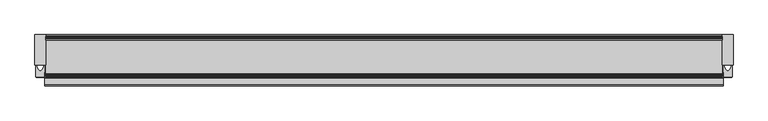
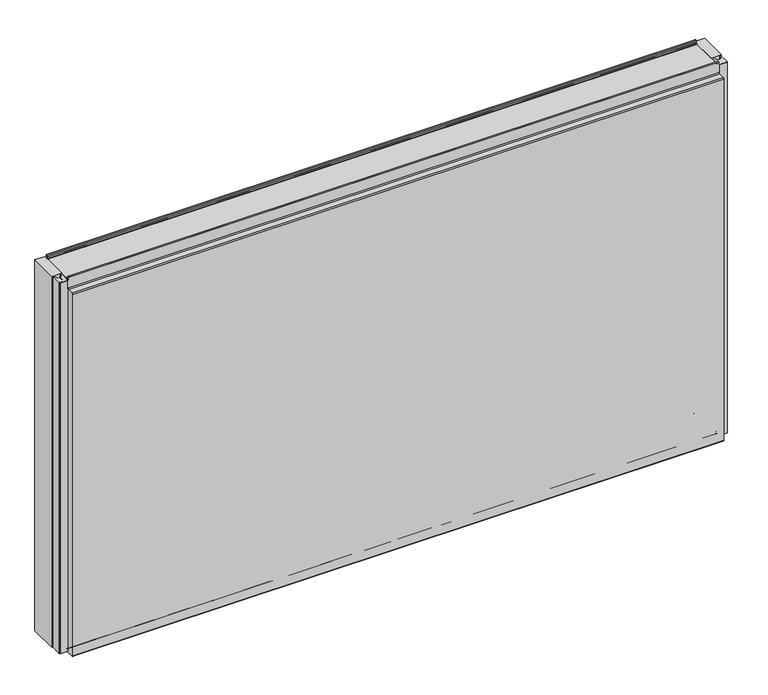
"""IFC4 building model written with IfcOpenShell, lengths in millimetres: plate geometry, Fronttop : Fronttop 150/1190."""

from ifc_helpers import new_model, si_unit, point, frame, frame_2d, origin, origin_with_axes, place, context, project, spatial, polyline, circle_curve, trimmed, segment, composite_curve, outline, extrude, source, transform, mapped, element, save
from ifc_brep_helpers import plane_surface, cylinder_surface, revolved_surface, advanced_brep


def plate_bd2da7d9(model_context):
    return source(origin(), model_context, "Body", "SolidModel", [
        advanced_brep(
        [(-986.5, -124.0, 1198.0), (-986.5, -124.0, 1190.0), (-986.5, -125.0, 1190.0), (-986.5, -125.0, 1198.0), (-986.5, -120.0, 1198.0), (-986.5, -120.0, 1194.0), (-986.5, -117.0, 1191.0), (-986.5, -115.0, 1191.0), (-986.5, -115.0, 1190.0), (-986.5, -117.0, 1190.0), (-986.5, -121.0, 1194.0), (-986.5, -121.0, 1198.0), (986.5, -125.0, 1198.0), (986.5, -125.0, 1190.0), (986.5, -124.0, 1190.0), (986.5, -124.0, 1198.0), (986.5, -121.0, 1198.0), (986.5, -121.0, 1194.0), (986.5, -117.0, 1190.0), (986.5, -115.0, 1190.0), (986.5, -115.0, 1191.0), (986.5, -117.0, 1191.0), (986.5, -120.0, 1194.0), (986.5, -120.0, 1198.0), (-986.5, -117.0, 2.0), (-986.5, -115.0, 2.0), (986.5, -115.0, 2.0), (986.5, -117.0, 2.0), (986.5, -119.0, 4.0), (-986.5, -119.0, 4.0), (986.5, -119.0, 8.0), (-986.5, -119.0, 8.0), (986.5, -126.0, 8.0), (-986.5, -126.0, 8.0), (986.5, -126.0, 0.0), (-986.5, -126.0, 0.0), (986.5, -129.0, -3.0), (-986.5, -129.0, -3.0), (986.5, -125.0, -3.0), (987.5, -125.0, -3.0), (987.5, -147.0, -3.0), (986.5, -147.0, -3.0), (-986.5, -147.0, -3.0), (-987.5, -147.0, -3.0), (-987.5, -125.0, -3.0), (-986.5, -125.0, -3.0), (986.5, -150.0, 0.0), (-986.5, -150.0, 0.0), (987.5, -150.0, 0.0), (987.5, -150.0, 1159.0), (986.5, -150.0, 1159.0), (-986.5, -150.0, 1159.0), (-987.5, -150.0, 1159.0), (-987.5, -150.0, 0.0), (986.5, -147.0, 1162.0), (-986.5, -147.0, 1162.0), (987.5, -147.0, 1162.0), (987.5, -128.0, 1162.0), (986.5, -128.0, 1162.0), (-986.5, -128.0, 1162.0), (-987.5, -128.0, 1162.0), (-987.5, -147.0, 1162.0), (986.5, -125.0, 1165.0), (-986.5, -125.0, 1165.0), (987.5, -125.0, 1165.0), (987.5, -125.0, 1190.0), (-987.5, -125.0, 1190.0), (-987.5, -125.0, 1165.0), (986.5, -124.0, 1165.0), (-986.5, -124.0, 1165.0), (986.5, -128.0, 1161.0), (-986.5, -128.0, 1161.0), (986.5, -147.0, 1161.0), (-986.5, -147.0, 1161.0), (986.5, -149.0, 1159.0), (-986.5, -149.0, 1159.0), (986.5, -149.0, 0.0), (-986.5, -149.0, 0.0), (986.5, -147.0, -2.0), (-986.5, -147.0, -2.0), (986.5, -129.0, -2.0), (-986.5, -129.0, -2.0), (986.5, -127.0, 0.0), (-986.5, -127.0, 0.0), (986.5, -127.0, 8.0), (-986.5, -127.0, 8.0), (986.5, -118.0, 8.0), (-986.5, -118.0, 8.0), (986.5, -118.0, 4.0), (-986.5, -118.0, 4.0), (986.5, -117.0, 3.0), (-986.5, -117.0, 3.0), (986.5, -115.0, 3.0), (-986.5, -115.0, 3.0), (987.5, -125.0, 0.0), (987.5, -110.0, 0.0), (987.5, -110.0, 1190.0), (986.5, -110.0, 1190.0), (986.5, -110.0, 0.0), (986.5, -125.0, 0.0), (-987.5, -110.0, 1190.0), (-987.5, -110.0, 0.0), (-987.5, -125.0, 0.0), (-986.5, -110.0, 1190.0), (-986.5, -125.0, 0.0), (-986.5, -110.0, 0.0)],
        [
            (0, 1),
            (1, 2),
            (2, 3),
            (3, 4, circle_curve(frame((-986.5, -122.5, 1198.0), z_axis=(-1.0, 0.0, 0.0), x_axis=(0.0, 1.0, 0.0)), 2.5)),
            (4, 5),
            (5, 6, circle_curve(frame((-986.5, -117.0, 1194.0), z_axis=(1.0, 0.0, 0.0), x_axis=(0.0, 1.0, 0.0)), 3.0)),
            (6, 7),
            (7, 8),
            (8, 9),
            (9, 10, circle_curve(frame((-986.5, -117.0, 1194.0), z_axis=(-1.0, 0.0, 0.0), x_axis=(0.0, 1.0, 0.0)), 4.0)),
            (10, 11),
            (11, 0, circle_curve(frame((-986.5, -122.5, 1198.0), z_axis=(1.0, 0.0, 0.0), x_axis=(0.0, 1.0, 0.0)), 1.5)),
            (12, 13),
            (13, 14),
            (14, 15),
            (15, 16, circle_curve(frame((986.5, -122.5, 1198.0), z_axis=(-1.0, 0.0, 0.0), x_axis=(0.0, 1.0, 0.0)), 1.5)),
            (16, 17),
            (17, 18, circle_curve(frame((986.5, -117.0, 1194.0), z_axis=(1.0, 0.0, 0.0), x_axis=(0.0, 1.0, 0.0)), 4.0)),
            (18, 19),
            (19, 20),
            (20, 21),
            (21, 22, circle_curve(frame((986.5, -117.0, 1194.0), z_axis=(-1.0, 0.0, 0.0), x_axis=(0.0, 1.0, 0.0)), 3.0)),
            (22, 23),
            (23, 12, circle_curve(frame((986.5, -122.5, 1198.0), z_axis=(1.0, 0.0, 0.0), x_axis=(0.0, 1.0, 0.0)), 2.5)),
            (24, 25),
            (25, 26),
            (26, 27),
            (27, 24),
            (27, 28, circle_curve(frame((986.5, -117.0, 4.0), z_axis=(-1.0, 0.0, 0.0), x_axis=(0.0, 1.0, 0.0)), 2.0)),
            (28, 29),
            (29, 24, circle_curve(frame((-986.5, -117.0, 4.0), z_axis=(1.0, 0.0, 0.0), x_axis=(0.0, 1.0, 0.0)), 2.0)),
            (28, 30),
            (30, 31),
            (31, 29),
            (30, 32, circle_curve(frame((986.5, -122.5, 8.0), z_axis=(1.0, 0.0, 0.0), x_axis=(0.0, 1.0, 0.0)), 3.5)),
            (32, 33),
            (33, 31, circle_curve(frame((-986.5, -122.5, 8.0), z_axis=(-1.0, 0.0, 0.0), x_axis=(0.0, 1.0, 0.0)), 3.5)),
            (32, 34),
            (34, 35),
            (35, 33),
            (34, 36, circle_curve(frame((986.5, -129.0, 0.0), z_axis=(-1.0, 0.0, 0.0), x_axis=(0.0, 1.0, 0.0)), 3.0)),
            (36, 37),
            (37, 35, circle_curve(frame((-986.5, -129.0, 0.0), z_axis=(1.0, 0.0, 0.0), x_axis=(0.0, 1.0, 0.0)), 3.0)),
            (36, 38),
            (38, 39),
            (39, 40),
            (40, 41),
            (41, 42),
            (42, 43),
            (43, 44),
            (44, 45),
            (45, 37),
            (41, 46, circle_curve(frame((986.5, -147.0, 0.0), z_axis=(-1.0, 0.0, 0.0), x_axis=(0.0, 1.0, 0.0)), 3.0)),
            (46, 47),
            (47, 42, circle_curve(frame((-986.5, -147.0, 0.0), z_axis=(1.0, 0.0, 0.0), x_axis=(0.0, 1.0, 0.0)), 3.0)),
            (46, 48),
            (48, 49),
            (49, 50),
            (50, 51),
            (51, 52),
            (52, 53),
            (53, 47),
            (50, 54, circle_curve(frame((986.5, -147.0, 1159.0), z_axis=(-1.0, 0.0, 0.0), x_axis=(0.0, 1.0, 0.0)), 3.0)),
            (54, 55),
            (55, 51, circle_curve(frame((-986.5, -147.0, 1159.0), z_axis=(1.0, 0.0, 0.0), x_axis=(0.0, 1.0, 0.0)), 3.0)),
            (54, 56),
            (56, 57),
            (57, 58),
            (58, 59),
            (59, 60),
            (60, 61),
            (61, 55),
            (58, 62, circle_curve(frame((986.5, -128.0, 1165.0), z_axis=(1.0, 0.0, 0.0), x_axis=(0.0, 1.0, 0.0)), 3.0)),
            (62, 63),
            (63, 59, circle_curve(frame((-986.5, -128.0, 1165.0), z_axis=(-1.0, 0.0, 0.0), x_axis=(0.0, 1.0, 0.0)), 3.0)),
            (62, 64),
            (64, 65),
            (65, 13),
            (12, 3),
            (2, 66),
            (66, 67),
            (67, 63),
            (23, 4),
            (22, 5),
            (21, 6),
            (20, 7),
            (19, 8),
            (19, 18),
            (18, 9),
            (9, 8),
            (17, 10),
            (16, 11),
            (15, 0),
            (14, 68),
            (68, 69),
            (69, 1),
            (68, 70, circle_curve(frame((986.5, -128.0, 1165.0), z_axis=(-1.0, 0.0, 0.0), x_axis=(0.0, 1.0, 0.0)), 4.0)),
            (70, 71),
            (71, 69, circle_curve(frame((-986.5, -128.0, 1165.0), z_axis=(1.0, 0.0, 0.0), x_axis=(0.0, 1.0, 0.0)), 4.0)),
            (70, 72),
            (72, 73),
            (73, 71),
            (72, 74, circle_curve(frame((986.5, -147.0, 1159.0), z_axis=(1.0, 0.0, 0.0), x_axis=(0.0, 1.0, 0.0)), 2.0)),
            (74, 75),
            (75, 73, circle_curve(frame((-986.5, -147.0, 1159.0), z_axis=(-1.0, 0.0, 0.0), x_axis=(0.0, 1.0, 0.0)), 2.0)),
            (74, 76),
            (76, 77),
            (77, 75),
            (76, 78, circle_curve(frame((986.5, -147.0, 0.0), z_axis=(1.0, 0.0, 0.0), x_axis=(0.0, 1.0, 0.0)), 2.0)),
            (78, 79),
            (79, 77, circle_curve(frame((-986.5, -147.0, 0.0), z_axis=(-1.0, 0.0, 0.0), x_axis=(0.0, 1.0, 0.0)), 2.0)),
            (78, 80),
            (80, 81),
            (81, 79),
            (80, 82, circle_curve(frame((986.5, -129.0, 0.0), z_axis=(1.0, 0.0, 0.0), x_axis=(0.0, 1.0, 0.0)), 2.0)),
            (82, 83),
            (83, 81, circle_curve(frame((-986.5, -129.0, 0.0), z_axis=(-1.0, 0.0, 0.0), x_axis=(0.0, 1.0, 0.0)), 2.0)),
            (82, 84),
            (84, 85),
            (85, 83),
            (84, 86, circle_curve(frame((986.5, -122.5, 8.0), z_axis=(-1.0, 0.0, 0.0), x_axis=(0.0, 1.0, 0.0)), 4.5)),
            (86, 87),
            (87, 85, circle_curve(frame((-986.5, -122.5, 8.0), z_axis=(1.0, 0.0, 0.0), x_axis=(0.0, 1.0, 0.0)), 4.5)),
            (86, 88),
            (88, 89),
            (89, 87),
            (88, 90, circle_curve(frame((986.5, -117.0, 4.0), z_axis=(1.0, 0.0, 0.0), x_axis=(0.0, 1.0, 0.0)), 1.0)),
            (90, 91),
            (91, 89, circle_curve(frame((-986.5, -117.0, 4.0), z_axis=(-1.0, 0.0, 0.0), x_axis=(0.0, 1.0, 0.0)), 1.0)),
            (90, 92),
            (92, 93),
            (93, 91),
            (25, 93),
            (92, 26),
            (64, 57, circle_curve(frame((987.5, -128.0, 1165.0), z_axis=(-1.0, 0.0, 0.0), x_axis=(0.0, -1.0, 0.0)), 3.0)),
            (56, 49, circle_curve(frame((987.5, -147.0, 1159.0), z_axis=(1.0, 0.0, 0.0), x_axis=(0.0, -1.0, 0.0)), 3.0)),
            (48, 40, circle_curve(frame((987.5, -147.0, 0.0), z_axis=(1.0, 0.0, 0.0), x_axis=(0.0, -1.0, 0.0)), 3.0)),
            (39, 94),
            (94, 95),
            (95, 96),
            (96, 65),
            (14, 18),
            (19, 97),
            (97, 98),
            (98, 99),
            (99, 38),
            (96, 97),
            (95, 98),
            (94, 99),
            (66, 100),
            (100, 101),
            (101, 102),
            (102, 44),
            (43, 53, circle_curve(frame((-987.5, -147.0, 0.0), z_axis=(-1.0, 0.0, 0.0), x_axis=(0.0, -1.0, 0.0)), 3.0)),
            (52, 61, circle_curve(frame((-987.5, -147.0, 1159.0), z_axis=(-1.0, 0.0, 0.0), x_axis=(0.0, -1.0, 0.0)), 3.0)),
            (60, 67, circle_curve(frame((-987.5, -128.0, 1165.0), z_axis=(1.0, 0.0, 0.0), x_axis=(0.0, -1.0, 0.0)), 3.0)),
            (103, 8),
            (9, 1),
            (45, 104),
            (104, 105),
            (105, 103),
            (103, 100),
            (105, 101),
            (104, 102),
        ],
        [
            plane_surface(frame((-986.5, 0.0, 0.0), z_axis=(-1.0, 0.0, 0.0), x_axis=(0.0, 0.0, 1.0))),
            plane_surface(frame((986.5, 0.0, 0.0), z_axis=(1.0, 0.0, 0.0), x_axis=(0.0, 0.0, 1.0))),
            plane_surface(frame((-986.5, -117.0, 2.0), z_axis=(0.0, 0.0, -1.0), x_axis=(1.0, 0.0, 0.0))),
            cylinder_surface(frame((-986.5, -117.0, 4.0), z_axis=(-1.0, 0.0, 0.0), x_axis=(0.0, 1.0, 0.0)), 2.0),
            plane_surface(frame((-986.5, -119.0, 8.0), z_axis=(0.0, -1.0, 0.0), x_axis=(1.0, 0.0, 0.0))),
            revolved_surface(polyline([(986.5, -119.0, 8.0), (-986.5, -119.0, 8.0)]), (-986.5, -122.5, 8.0), (1.0, 0.0, 0.0)),
            plane_surface(frame((-986.5, -126.0, 0.0), z_axis=(0.0, 1.0, 0.0), x_axis=(1.0, 0.0, 0.0))),
            cylinder_surface(frame((-986.5, -129.0, 0.0), z_axis=(-1.0, 0.0, 0.0), x_axis=(0.0, 1.0, 0.0)), 3.0),
            plane_surface(frame((-986.5, -147.0, -3.0), z_axis=(0.0, 0.0, -1.0), x_axis=(1.0, 0.0, 0.0))),
            cylinder_surface(frame((-986.5, -147.0, 0.0), z_axis=(-1.0, 0.0, 0.0), x_axis=(0.0, 1.0, 0.0)), 3.0),
            plane_surface(frame((-986.5, -150.0, 1159.0), z_axis=(0.0, -1.0, 0.0), x_axis=(1.0, 0.0, 0.0))),
            cylinder_surface(frame((-986.5, -147.0, 1159.0), z_axis=(-1.0, 0.0, 0.0), x_axis=(0.0, 1.0, 0.0)), 3.0),
            plane_surface(frame((-986.5, -128.0, 1162.0), z_axis=(0.0, 0.0, 1.0), x_axis=(1.0, 0.0, 0.0))),
            revolved_surface(polyline([(986.5, -125.0, 1165.0), (-986.5, -125.0, 1165.0)]), (-986.5, -128.0, 1165.0), (1.0, 0.0, 0.0)),
            plane_surface(frame((-986.5, -125.0, 1198.0), z_axis=(0.0, -1.0, 0.0), x_axis=(1.0, 0.0, 0.0))),
            cylinder_surface(frame((-986.5, -122.5, 1198.0), z_axis=(-1.0, 0.0, 0.0), x_axis=(0.0, 1.0, 0.0)), 2.5),
            plane_surface(frame((-986.5, -120.0, 1194.0), z_axis=(0.0, 1.0, 0.0), x_axis=(1.0, 0.0, 0.0))),
            revolved_surface(polyline([(986.5, -114.0, 1194.0), (-986.5, -114.0, 1194.0)]), (-986.5, -117.0, 1194.0), (1.0, 0.0, 0.0)),
            plane_surface(frame((-986.5, -115.0, 1191.0), z_axis=(0.0, 0.0, 1.0), x_axis=(1.0, 0.0, 0.0))),
            plane_surface(frame((-986.5, -115.0, 1190.0), z_axis=(0.0, 1.0, 0.0), x_axis=(1.0, 0.0, 0.0))),
            plane_surface(frame((-986.5, -117.0, 1190.0), z_axis=(0.0, 0.0, -1.0), x_axis=(1.0, 0.0, 0.0))),
            cylinder_surface(frame((-986.5, -117.0, 1194.0), z_axis=(-1.0, 0.0, 0.0), x_axis=(0.0, 1.0, 0.0)), 4.0),
            plane_surface(frame((-986.5, -121.0, 1198.0), z_axis=(0.0, -1.0, 0.0), x_axis=(1.0, 0.0, 0.0))),
            revolved_surface(polyline([(986.5, -121.0, 1198.0), (-986.5, -121.0, 1198.0)]), (-986.5, -122.5, 1198.0), (1.0, 0.0, 0.0)),
            plane_surface(frame((-986.5, -124.0, 1165.0), z_axis=(0.0, 1.0, 0.0), x_axis=(1.0, 0.0, 0.0))),
            cylinder_surface(frame((-986.5, -128.0, 1165.0), z_axis=(-1.0, 0.0, 0.0), x_axis=(0.0, 1.0, 0.0)), 4.0),
            plane_surface(frame((-986.5, -147.0, 1161.0), z_axis=(0.0, 0.0, -1.0), x_axis=(1.0, 0.0, 0.0))),
            revolved_surface(polyline([(986.5, -145.0, 1159.0), (-986.5, -145.0, 1159.0)]), (-986.5, -147.0, 1159.0), (1.0, 0.0, 0.0)),
            plane_surface(frame((-986.5, -149.0, 0.0), z_axis=(0.0, 1.0, 0.0), x_axis=(1.0, 0.0, 0.0))),
            revolved_surface(polyline([(986.5, -145.0, 0.0), (-986.5, -145.0, 0.0)]), (-986.5, -147.0, 0.0), (1.0, 0.0, 0.0)),
            plane_surface(frame((-986.5, -129.0, -2.0), z_axis=(0.0, 0.0, 1.0), x_axis=(1.0, 0.0, 0.0))),
            revolved_surface(polyline([(986.5, -127.0, 0.0), (-986.5, -127.0, 0.0)]), (-986.5, -129.0, 0.0), (1.0, 0.0, 0.0)),
            plane_surface(frame((-986.5, -127.0, 8.0), z_axis=(0.0, -1.0, 0.0), x_axis=(1.0, 0.0, 0.0))),
            cylinder_surface(frame((-986.5, -122.5, 8.0), z_axis=(-1.0, 0.0, 0.0), x_axis=(0.0, 1.0, 0.0)), 4.5),
            plane_surface(frame((-986.5, -118.0, 4.0), z_axis=(0.0, 1.0, 0.0), x_axis=(1.0, 0.0, 0.0))),
            revolved_surface(polyline([(986.5, -116.0, 4.0), (-986.5, -116.0, 4.0)]), (-986.5, -117.0, 4.0), (1.0, 0.0, 0.0)),
            plane_surface(frame((-986.5, -115.0, 3.0), z_axis=(0.0, 0.0, 1.0), x_axis=(1.0, 0.0, 0.0))),
            plane_surface(frame((-986.5, -115.0, 2.0), z_axis=(0.0, 1.0, 0.0), x_axis=(1.0, 0.0, 0.0))),
            plane_surface(frame((987.5, -125.0, 1190.0), z_axis=(1.0, 0.0, 0.0), x_axis=(0.0, 1.0, 0.0))),
            plane_surface(frame((986.5, -125.0, 1190.0), z_axis=(-1.0, 0.0, 0.0), x_axis=(0.0, -1.0, 0.0))),
            plane_surface(frame((987.5, -125.0, 1190.0), z_axis=(0.0, 0.0, 1.0), x_axis=(-1.0, 0.0, 0.0))),
            plane_surface(frame((987.5, -110.0, 1190.0), z_axis=(0.0, 1.0, 0.0), x_axis=(-1.0, 0.0, 0.0))),
            plane_surface(frame((987.5, -110.0, 0.0), z_axis=(0.0, 0.0, -1.0), x_axis=(-1.0, 0.0, 0.0))),
            cylinder_surface(frame((986.5, -147.0, 0.0), z_axis=(1.0, 0.0, 0.0), x_axis=(0.0, -1.0, 0.0)), 3.0),
            cylinder_surface(frame((986.5, -147.0, 1159.0), z_axis=(1.0, 0.0, 0.0), x_axis=(0.0, -1.0, 0.0)), 3.0),
            revolved_surface(polyline([(986.5, -131.0, 1165.0), (987.5, -131.0, 1165.0)]), (986.5, -128.0, 1165.0), (-1.0, 0.0, 0.0)),
            plane_surface(frame((-987.5, -125.0, 1190.0), z_axis=(-1.0, 0.0, 0.0), x_axis=(0.0, -1.0, 0.0))),
            plane_surface(frame((-986.5, -125.0, 1190.0), z_axis=(1.0, 0.0, 0.0), x_axis=(0.0, 1.0, 0.0))),
            plane_surface(frame((-986.5, -125.0, 1190.0), z_axis=(0.0, 0.0, 1.0), x_axis=(-1.0, 0.0, 0.0))),
            plane_surface(frame((-986.5, -110.0, 1190.0), z_axis=(0.0, 1.0, 0.0), x_axis=(-1.0, 0.0, 0.0))),
            plane_surface(frame((-986.5, -110.0, 0.0), z_axis=(0.0, 0.0, -1.0), x_axis=(-1.0, 0.0, 0.0))),
            cylinder_surface(frame((-987.5, -147.0, 0.0), z_axis=(1.0, 0.0, 0.0), x_axis=(0.0, -1.0, 0.0)), 3.0),
            cylinder_surface(frame((-987.5, -147.0, 1159.0), z_axis=(1.0, 0.0, 0.0), x_axis=(0.0, -1.0, 0.0)), 3.0),
            revolved_surface(polyline([(-987.5, -131.0, 1165.0), (-986.5, -131.0, 1165.0)]), (-987.5, -128.0, 1165.0), (-1.0, 0.0, 0.0)),
            plane_surface(frame((987.5, -125.0, 0.0), z_axis=(0.0, 1.0, 0.0), x_axis=(-1.0, 0.0, 0.0))),
            plane_surface(frame((-986.5, -125.0, 0.0), z_axis=(0.0, 1.0, 0.0), x_axis=(-1.0, 0.0, 0.0))),
        ],
        [
            (0, [[1, 2, 3, 4, 5, 6, 7, 8, 9, 10, 11, 12]]),
            (1, [[13, 14, 15, 16, 17, 18, 19, 20, 21, 22, 23, 24]]),
            (2, [[25, 26, 27, 28]]),
            (3, [[29, 30, 31, -28]]),
            (4, [[32, 33, 34, -30]]),
            (5, [[35, 36, 37, -33]]),
            (6, [[38, 39, 40, -36]]),
            (7, [[41, 42, 43, -39]]),
            (8, [[44, 45, 46, 47, 48, 49, 50, 51, 52, -42]]),
            (9, [[53, 54, 55, -48]]),
            (10, [[56, 57, 58, 59, 60, 61, 62, -54]]),
            (11, [[63, 64, 65, -59]]),
            (12, [[66, 67, 68, 69, 70, 71, 72, -64]]),
            (13, [[73, 74, 75, -69]]),
            (14, [[76, 77, 78, -13, 79, -3, 80, 81, 82, -74]]),
            (15, [[-79, -24, 83, -4]]),
            (16, [[-83, -23, 84, -5]]),
            (17, [[-84, -22, 85, -6]]),
            (18, [[-85, -21, 86, -7]]),
            (19, [[-86, -20, 87, -8]]),
            (20, [[88, 89, 90, -87]]),
            (21, [[-89, -18, 91, -10]]),
            (22, [[-91, -17, 92, -11]]),
            (23, [[-92, -16, 93, -12]]),
            (24, [[-15, 94, 95, 96, -1, -93]]),
            (25, [[97, 98, 99, -95]]),
            (26, [[100, 101, 102, -98]]),
            (27, [[103, 104, 105, -101]]),
            (28, [[106, 107, 108, -104]]),
            (29, [[109, 110, 111, -107]]),
            (30, [[112, 113, 114, -110]]),
            (31, [[115, 116, 117, -113]]),
            (32, [[118, 119, 120, -116]]),
            (33, [[121, 122, 123, -119]]),
            (34, [[124, 125, 126, -122]]),
            (35, [[127, 128, 129, -125]]),
            (36, [[130, 131, 132, -128]]),
            (37, [[133, -131, 134, -26]]),
            (38, [[-77, 135, -67, 136, -57, 137, -46, 138, 139, 140, 141]]),
            (39, [[-44, -41, -38, -35, -32, -29, -27, -134, -130, -127, -124, -121, -118, -115, -112, -109, -106, -103, -100, -97, -94, 142, -88, 143, 144, 145, 146]]),
            (40, [[147, -143, -19, -142, -14, -78, -141]]),
            (41, [[148, -144, -147, -140]]),
            (42, [[149, -145, -148, -139]]),
            (43, [[-56, -53, -47, -137]]),
            (44, [[-66, -63, -58, -136]]),
            (45, [[-76, -73, -68, -135]]),
            (46, [[150, 151, 152, 153, -50, 154, -61, 155, -71, 156, -81]]),
            (47, [[157, -90, 158, -96, -99, -102, -105, -108, -111, -114, -117, -120, -123, -126, -129, -132, -133, -25, -31, -34, -37, -40, -43, -52, 159, 160, 161]]),
            (48, [[-80, -2, -158, -9, -157, 162, -150]]),
            (49, [[-162, -161, 163, -151]]),
            (50, [[-163, -160, 164, -152]]),
            (51, [[-49, -55, -62, -154]]),
            (52, [[-60, -65, -72, -155]]),
            (53, [[-70, -75, -82, -156]]),
            (54, [[-45, -146, -149, -138]]),
            (55, [[-164, -159, -51, -153]]),
        ],
    ),
        extrude(outline(composite_curve([segment(polyline([(-1012.5001545, -123.5), (-1012.5001545, -90.0), (-1009.75, -90.0), (-1009.75, -92.5)]), True, "CONTINUOUS"), segment(trimmed(circle_curve(frame_2d((-991.9661979, -89.3183984)), 18.0661619), [point((-1009.75, -92.5))], [point((-1000.0, -105.5))], True, "CARTESIAN"), True, "CONTINUOUS"), segment(trimmed(circle_curve(frame_2d((-1008.0338021, -89.3183984)), 18.0661619), [point((-1000.0, -105.5))], [point((-990.25, -92.5))], True, "CARTESIAN"), True, "CONTINUOUS"), segment(polyline([(-990.25, -92.5), (-990.25, -90.0), (-987.4998455, -90.0), (-987.4998455, -123.5), (-999.25, -123.5), (-999.25, -107.5), (-1000.75, -107.5), (-1000.75, -123.5), (-1012.5001545, -123.5)]), True, "CONTINUOUS")], self_intersect=False)), origin_with_axes(), (0.0, 0.0, 1.0), 1190.0),
        extrude(outline(polyline([(-984.5, 0.0), (-984.5, -88.0), (-1015.5, -88.0), (-1015.5, 0.0), (-984.5, 0.0)])), origin_with_axes(), (0.0, 0.0, 1.0), 1190.0),
        extrude(outline(polyline([(-1011.5051154, -125.0), (-1011.5051154, -123.5), (-1000.65, -123.5), (-1000.65, -109.0759655), (-999.3497504, -109.0759655), (-999.3497504, -123.5), (-988.4948846, -123.5), (-988.4948846, -125.0), (-1011.5051154, -125.0)])), origin_with_axes(), (0.0, 0.0, 1.0), 1190.0),
        extrude(outline(composite_curve([segment(polyline([(987.4998455, -123.5), (987.4998455, -90.0), (990.25, -90.0), (990.25, -92.5)]), True, "CONTINUOUS"), segment(trimmed(circle_curve(frame_2d((1008.0338021, -89.3183984)), 18.0661619), [point((990.25, -92.5))], [point((1000.0, -105.5))], True, "CARTESIAN"), True, "CONTINUOUS"), segment(trimmed(circle_curve(frame_2d((991.9661979, -89.3183984)), 18.0661619), [point((1000.0, -105.5))], [point((1009.75, -92.5))], True, "CARTESIAN"), True, "CONTINUOUS"), segment(polyline([(1009.75, -92.5), (1009.75, -90.0), (1012.5001545, -90.0), (1012.5001545, -123.5), (1000.75, -123.5), (1000.75, -107.5), (999.25, -107.5), (999.25, -123.5), (987.4998455, -123.5)]), True, "CONTINUOUS")], self_intersect=False)), origin_with_axes(), (0.0, 0.0, 1.0), 1190.0),
        extrude(outline(polyline([(1015.5, 0.0), (1015.5, -88.0), (984.5, -88.0), (984.5, 0.0), (1015.5, 0.0)])), origin_with_axes(), (0.0, 0.0, 1.0), 1190.0),
        extrude(outline(polyline([(988.4948846, -125.0), (988.4948846, -123.5), (999.35, -123.5), (999.35, -109.0759655), (1000.6502496, -109.0759655), (1000.6502496, -123.5), (1011.5051154, -123.5), (1011.5051154, -125.0), (988.4948846, -125.0)])), origin_with_axes(), (0.0, 0.0, 1.0), 1190.0),
        advanced_brep(
        [(-984.5, -13.0, 1191.0), (-984.5, -10.0, 1194.0), (-984.5, -10.0, 1198.0), (-984.5, -5.0, 1198.0), (-984.5, -5.0, 1189.5), (-984.5, -2.2239212, 1187.0152907), (-984.5, 0.0, 1185.0), (-984.5, 0.0, -0.5), (-984.5, -4.0, -0.5), (-984.5, -4.0, 8.0), (-984.5, -11.0, 8.0), (-984.5, -11.0, 4.0), (-984.5, -13.0, 2.0), (-984.5, -15.0, 2.0), (-984.5, -15.0, 3.0), (-984.5, -13.0, 3.0), (-984.5, -12.0, 4.0), (-984.5, -12.0, 8.0), (-984.5, -3.0, 8.0), (-984.5, -3.0, -0.5), (-984.5, -1.0, -0.5), (-984.5, -1.0, 1185.0), (-984.5, -2.1104315, 1185.9938837), (-984.5, -6.0, 1189.5), (-984.5, -6.0, 1198.0), (-984.5, -9.0, 1198.0), (-984.5, -9.0, 1194.0), (-984.5, -13.0, 1190.0), (-984.5, -15.0, 1190.0), (-984.5, -15.0, 1191.0), (984.5, -13.0, 1191.0), (984.5, -15.0, 1191.0), (984.5, -15.0, 1190.0), (984.5, -13.0, 1190.0), (984.5, -9.0, 1194.0), (984.5, -9.0, 1198.0), (984.5, -6.0, 1198.0), (984.5, -6.0, 1189.5), (984.5, -2.1134897, 1186.0214069), (984.5, -1.0, 1185.0), (984.5, -1.0, -0.5), (984.5, -3.0, -0.5), (984.5, -3.0, 8.0), (984.5, -12.0, 8.0), (984.5, -12.0, 4.0), (984.5, -13.0, 3.0), (984.5, -15.0, 3.0), (984.5, -15.0, 2.0), (984.5, -13.0, 2.0), (984.5, -11.0, 4.0), (984.5, -11.0, 8.0), (984.5, -4.0, 8.0), (984.5, -4.0, -0.5), (984.5, 0.0, -0.5), (984.5, 0.0, 1185.0), (984.5, -2.220863, 1186.9877675), (984.5, -5.0, 1189.5), (984.5, -5.0, 1198.0), (984.5, -10.0, 1198.0), (984.5, -10.0, 1194.0)],
        [
            (0, 1, circle_curve(frame((-984.5, -13.0, 1194.0), z_axis=(1.0, 0.0, 0.0), x_axis=(0.0, 1.0, 0.0)), 3.0)),
            (1, 2),
            (2, 3, circle_curve(frame((-984.5, -7.5, 1198.0), z_axis=(-1.0, 0.0, 0.0), x_axis=(0.0, 1.0, 0.0)), 2.5)),
            (3, 4),
            (4, 5, circle_curve(frame((-984.5, -2.5, 1189.5), z_axis=(1.0, 0.0, 0.0), x_axis=(0.0, 1.0, 0.0)), 2.5)),
            (5, 6, circle_curve(frame((-984.5, -2.0, 1185.0), z_axis=(-1.0, 0.0, 0.0), x_axis=(0.0, 1.0, 0.0)), 2.0)),
            (6, 7),
            (7, 8, circle_curve(frame((-984.5, -2.0, -0.5), z_axis=(-1.0, 0.0, 0.0), x_axis=(0.0, 1.0, 0.0)), 2.0)),
            (8, 9),
            (9, 10, circle_curve(frame((-984.5, -7.5, 8.0), z_axis=(1.0, 0.0, 0.0), x_axis=(0.0, 1.0, 0.0)), 3.5)),
            (10, 11),
            (11, 12, circle_curve(frame((-984.5, -13.0, 4.0), z_axis=(-1.0, 0.0, 0.0), x_axis=(0.0, 1.0, 0.0)), 2.0)),
            (12, 13),
            (13, 14),
            (14, 15),
            (15, 16, circle_curve(frame((-984.5, -13.0, 4.0), z_axis=(1.0, 0.0, 0.0), x_axis=(0.0, 1.0, 0.0)), 1.0)),
            (16, 17),
            (17, 18, circle_curve(frame((-984.5, -7.5, 8.0), z_axis=(-1.0, 0.0, 0.0), x_axis=(0.0, 1.0, 0.0)), 4.5)),
            (18, 19),
            (19, 20, circle_curve(frame((-984.5, -2.0, -0.5), z_axis=(1.0, 0.0, 0.0), x_axis=(0.0, 1.0, 0.0)), 1.0)),
            (20, 21),
            (21, 22, circle_curve(frame((-984.5, -2.0, 1185.0), z_axis=(1.0, 0.0, 0.0), x_axis=(0.0, 1.0, 0.0)), 1.0)),
            (22, 23, circle_curve(frame((-984.5, -2.5, 1189.5), z_axis=(-1.0, 0.0, 0.0), x_axis=(0.0, 1.0, 0.0)), 3.5)),
            (23, 24),
            (24, 25, circle_curve(frame((-984.5, -7.5, 1198.0), z_axis=(1.0, 0.0, 0.0), x_axis=(0.0, 1.0, 0.0)), 1.5)),
            (25, 26),
            (26, 27, circle_curve(frame((-984.5, -13.0, 1194.0), z_axis=(-1.0, 0.0, 0.0), x_axis=(0.0, 1.0, 0.0)), 4.0)),
            (27, 28),
            (28, 29),
            (29, 0),
            (30, 31),
            (31, 32),
            (32, 33),
            (33, 34, circle_curve(frame((984.5, -13.0, 1194.0), z_axis=(1.0, 0.0, 0.0), x_axis=(0.0, 1.0, 0.0)), 4.0)),
            (34, 35),
            (35, 36, circle_curve(frame((984.5, -7.5, 1198.0), z_axis=(-1.0, 0.0, 0.0), x_axis=(0.0, 1.0, 0.0)), 1.5)),
            (36, 37),
            (37, 38, circle_curve(frame((984.5, -2.5, 1189.5), z_axis=(1.0, 0.0, 0.0), x_axis=(0.0, 1.0, 0.0)), 3.5)),
            (38, 39, circle_curve(frame((984.5, -2.0, 1185.0), z_axis=(-1.0, 0.0, 0.0), x_axis=(0.0, 1.0, 0.0)), 1.0)),
            (39, 40),
            (40, 41, circle_curve(frame((984.5, -2.0, -0.5), z_axis=(-1.0, 0.0, 0.0), x_axis=(0.0, 1.0, 0.0)), 1.0)),
            (41, 42),
            (42, 43, circle_curve(frame((984.5, -7.5, 8.0), z_axis=(1.0, 0.0, 0.0), x_axis=(0.0, 1.0, 0.0)), 4.5)),
            (43, 44),
            (44, 45, circle_curve(frame((984.5, -13.0, 4.0), z_axis=(-1.0, 0.0, 0.0), x_axis=(0.0, 1.0, 0.0)), 1.0)),
            (45, 46),
            (46, 47),
            (47, 48),
            (48, 49, circle_curve(frame((984.5, -13.0, 4.0), z_axis=(1.0, 0.0, 0.0), x_axis=(0.0, 1.0, 0.0)), 2.0)),
            (49, 50),
            (50, 51, circle_curve(frame((984.5, -7.5, 8.0), z_axis=(-1.0, 0.0, 0.0), x_axis=(0.0, 1.0, 0.0)), 3.5)),
            (51, 52),
            (52, 53, circle_curve(frame((984.5, -2.0, -0.5), z_axis=(1.0, 0.0, 0.0), x_axis=(0.0, 1.0, 0.0)), 2.0)),
            (53, 54),
            (54, 55, circle_curve(frame((984.5, -2.0, 1185.0), z_axis=(1.0, 0.0, 0.0), x_axis=(0.0, 1.0, 0.0)), 2.0)),
            (55, 56, circle_curve(frame((984.5, -2.5, 1189.5), z_axis=(-1.0, 0.0, 0.0), x_axis=(0.0, 1.0, 0.0)), 2.5)),
            (56, 57),
            (57, 58, circle_curve(frame((984.5, -7.5, 1198.0), z_axis=(1.0, 0.0, 0.0), x_axis=(0.0, 1.0, 0.0)), 2.5)),
            (58, 59),
            (59, 30, circle_curve(frame((984.5, -13.0, 1194.0), z_axis=(-1.0, 0.0, 0.0), x_axis=(0.0, 1.0, 0.0)), 3.0)),
            (29, 31),
            (30, 0),
            (28, 32),
            (27, 33),
            (26, 34),
            (25, 35),
            (24, 36),
            (23, 37),
            (22, 38),
            (21, 39),
            (20, 40),
            (19, 41),
            (18, 42),
            (17, 43),
            (16, 44),
            (15, 45),
            (14, 46),
            (13, 47),
            (12, 48),
            (11, 49),
            (10, 50),
            (9, 51),
            (8, 52),
            (7, 53),
            (6, 54),
            (5, 55),
            (4, 56),
            (3, 57),
            (2, 58),
            (1, 59),
        ],
        [
            plane_surface(frame((-984.5, 0.0, 0.0), z_axis=(-1.0, 0.0, 0.0), x_axis=(0.0, 0.0, 1.0))),
            plane_surface(frame((984.5, 0.0, 0.0), z_axis=(1.0, 0.0, 0.0), x_axis=(0.0, 0.0, 1.0))),
            plane_surface(frame((-984.5, -13.0, 1191.0), z_axis=(0.0, 0.0, 1.0), x_axis=(1.0, 0.0, 0.0))),
            plane_surface(frame((-984.5, -15.0, 1191.0), z_axis=(0.0, -1.0, 0.0), x_axis=(1.0, 0.0, 0.0))),
            plane_surface(frame((-984.5, -15.0, 1190.0), z_axis=(0.0, 0.0, -1.0), x_axis=(1.0, 0.0, 0.0))),
            cylinder_surface(frame((-984.5, -13.0, 1194.0), z_axis=(-1.0, 0.0, 0.0), x_axis=(0.0, 1.0, 0.0)), 4.0),
            plane_surface(frame((-984.5, -9.0, 1194.0), z_axis=(0.0, 1.0, 0.0), x_axis=(1.0, 0.0, 0.0))),
            revolved_surface(polyline([(984.5, -6.0, 1198.0), (-984.5, -6.0, 1198.0)]), (-984.5, -7.5, 1198.0), (1.0, 0.0, 0.0)),
            plane_surface(frame((-984.5, -6.0, 1198.0), z_axis=(0.0, -1.0, 0.0), x_axis=(1.0, 0.0, 0.0))),
            cylinder_surface(frame((-984.5, -2.5, 1189.5), z_axis=(-1.0, 0.0, 0.0), x_axis=(0.0, 1.0, 0.0)), 3.5),
            revolved_surface(polyline([(984.5, -1.0, 1185.0), (-984.5, -1.0, 1185.0)]), (-984.5, -2.0, 1185.0), (1.0, 0.0, 0.0)),
            plane_surface(frame((-984.5, -1.0, 1185.0), z_axis=(0.0, -1.0, 0.0), x_axis=(1.0, 0.0, 0.0))),
            revolved_surface(polyline([(984.5, -1.0, -0.5), (-984.5, -1.0, -0.5)]), (-984.5, -2.0, -0.5), (1.0, 0.0, 0.0)),
            plane_surface(frame((-984.5, -3.0, -0.5), z_axis=(0.0, 1.0, 0.0), x_axis=(1.0, 0.0, 0.0))),
            cylinder_surface(frame((-984.5, -7.5, 8.0), z_axis=(-1.0, 0.0, 0.0), x_axis=(0.0, 1.0, 0.0)), 4.5),
            plane_surface(frame((-984.5, -12.0, 8.0), z_axis=(0.0, -1.0, 0.0), x_axis=(1.0, 0.0, 0.0))),
            revolved_surface(polyline([(984.5, -12.0, 4.0), (-984.5, -12.0, 4.0)]), (-984.5, -13.0, 4.0), (1.0, 0.0, 0.0)),
            plane_surface(frame((-984.5, -13.0, 3.0), z_axis=(0.0, 0.0, 1.0), x_axis=(1.0, 0.0, 0.0))),
            plane_surface(frame((-984.5, -15.0, 3.0), z_axis=(0.0, -1.0, 0.0), x_axis=(1.0, 0.0, 0.0))),
            plane_surface(frame((-984.5, -15.0, 2.0), z_axis=(0.0, 0.0, -1.0), x_axis=(1.0, 0.0, 0.0))),
            cylinder_surface(frame((-984.5, -13.0, 4.0), z_axis=(-1.0, 0.0, 0.0), x_axis=(0.0, 1.0, 0.0)), 2.0),
            plane_surface(frame((-984.5, -11.0, 4.0), z_axis=(0.0, 1.0, 0.0), x_axis=(1.0, 0.0, 0.0))),
            revolved_surface(polyline([(984.5, -4.0, 8.0), (-984.5, -4.0, 8.0)]), (-984.5, -7.5, 8.0), (1.0, 0.0, 0.0)),
            plane_surface(frame((-984.5, -4.0, 8.0), z_axis=(0.0, -1.0, 0.0), x_axis=(1.0, 0.0, 0.0))),
            cylinder_surface(frame((-984.5, -2.0, -0.5), z_axis=(-1.0, 0.0, 0.0), x_axis=(0.0, 1.0, 0.0)), 2.0),
            plane_surface(frame((-984.5, 0.0, -0.5), z_axis=(0.0, 1.0, 0.0), x_axis=(1.0, 0.0, 0.0))),
            cylinder_surface(frame((-984.5, -2.0, 1185.0), z_axis=(-1.0, 0.0, 0.0), x_axis=(0.0, 1.0, 0.0)), 2.0),
            revolved_surface(polyline([(984.5, 0.0, 1189.5), (-984.5, 0.0, 1189.5)]), (-984.5, -2.5, 1189.5), (1.0, 0.0, 0.0)),
            plane_surface(frame((-984.5, -5.0, 1189.5), z_axis=(0.0, 1.0, 0.0), x_axis=(1.0, 0.0, 0.0))),
            cylinder_surface(frame((-984.5, -7.5, 1198.0), z_axis=(-1.0, 0.0, 0.0), x_axis=(0.0, 1.0, 0.0)), 2.5),
            plane_surface(frame((-984.5, -10.0, 1198.0), z_axis=(0.0, -1.0, 0.0), x_axis=(1.0, 0.0, 0.0))),
            revolved_surface(polyline([(984.5, -10.0, 1194.0), (-984.5, -10.0, 1194.0)]), (-984.5, -13.0, 1194.0), (1.0, 0.0, 0.0)),
        ],
        [
            (0, [[1, 2, 3, 4, 5, 6, 7, 8, 9, 10, 11, 12, 13, 14, 15, 16, 17, 18, 19, 20, 21, 22, 23, 24, 25, 26, 27, 28, 29, 30]]),
            (1, [[31, 32, 33, 34, 35, 36, 37, 38, 39, 40, 41, 42, 43, 44, 45, 46, 47, 48, 49, 50, 51, 52, 53, 54, 55, 56, 57, 58, 59, 60]]),
            (2, [[61, -31, 62, -30]]),
            (3, [[63, -32, -61, -29]]),
            (4, [[64, -33, -63, -28]]),
            (5, [[65, -34, -64, -27]]),
            (6, [[66, -35, -65, -26]]),
            (7, [[67, -36, -66, -25]]),
            (8, [[68, -37, -67, -24]]),
            (9, [[69, -38, -68, -23]]),
            (10, [[70, -39, -69, -22]]),
            (11, [[71, -40, -70, -21]]),
            (12, [[72, -41, -71, -20]]),
            (13, [[73, -42, -72, -19]]),
            (14, [[74, -43, -73, -18]]),
            (15, [[75, -44, -74, -17]]),
            (16, [[76, -45, -75, -16]]),
            (17, [[77, -46, -76, -15]]),
            (18, [[78, -47, -77, -14]]),
            (19, [[79, -48, -78, -13]]),
            (20, [[80, -49, -79, -12]]),
            (21, [[81, -50, -80, -11]]),
            (22, [[82, -51, -81, -10]]),
            (23, [[83, -52, -82, -9]]),
            (24, [[84, -53, -83, -8]]),
            (25, [[85, -54, -84, -7]]),
            (26, [[86, -55, -85, -6]]),
            (27, [[87, -56, -86, -5]]),
            (28, [[88, -57, -87, -4]]),
            (29, [[89, -58, -88, -3]]),
            (30, [[90, -59, -89, -2]]),
            (31, [[-62, -60, -90, -1]]),
        ],
    ),
        extrude(outline(composite_curve([segment(polyline([(-15.0, 3.0), (-15.0, 0.0), (-115.0, 0.0), (-115.0, 3.0), (-117.0, 3.0)]), True, "CONTINUOUS"), segment(trimmed(circle_curve(frame_2d((-117.0, 4.0)), 1.0), [point((-117.0, 3.0))], [point((-118.0, 4.0))], False, "CARTESIAN"), True, "CONTINUOUS"), segment(polyline([(-118.0, 4.0), (-118.0, 8.0)]), True, "CONTINUOUS"), segment(trimmed(circle_curve(frame_2d((-122.5, 8.0)), 4.5), [point((-118.0, 8.0))], [point((-127.0, 8.0))], True, "CARTESIAN"), True, "CONTINUOUS"), segment(polyline([(-127.0, 8.0), (-127.0, 0.0)]), True, "CONTINUOUS"), segment(trimmed(circle_curve(frame_2d((-129.0, 0.0)), 2.0), [point((-127.0, 0.0))], [point((-129.0, -2.0))], False, "CARTESIAN"), True, "CONTINUOUS"), segment(polyline([(-129.0, -2.0), (-147.0, -2.0)]), True, "CONTINUOUS"), segment(trimmed(circle_curve(frame_2d((-147.0, 0.0)), 2.0), [point((-147.0, -2.0))], [point((-149.0, 0.0))], False, "CARTESIAN"), True, "CONTINUOUS"), segment(polyline([(-149.0, 0.0), (-149.0, 1159.0)]), True, "CONTINUOUS"), segment(trimmed(circle_curve(frame_2d((-147.0, 1159.0)), 2.0), [point((-149.0, 1159.0))], [point((-147.0, 1161.0))], False, "CARTESIAN"), True, "CONTINUOUS"), segment(polyline([(-147.0, 1161.0), (-128.0, 1161.0)]), True, "CONTINUOUS"), segment(trimmed(circle_curve(frame_2d((-128.0, 1165.0)), 4.0), [point((-128.0, 1161.0))], [point((-124.0, 1165.0))], True, "CARTESIAN"), True, "CONTINUOUS"), segment(polyline([(-124.0, 1165.0), (-124.0, 1198.0)]), True, "CONTINUOUS"), segment(trimmed(circle_curve(frame_2d((-122.5, 1198.0)), 1.5), [point((-124.0, 1198.0))], [point((-121.0, 1198.0))], False, "CARTESIAN"), True, "CONTINUOUS"), segment(polyline([(-121.0, 1198.0), (-121.0, 1194.0)]), True, "CONTINUOUS"), segment(trimmed(circle_curve(frame_2d((-117.0, 1194.0)), 4.0), [point((-121.0, 1194.0))], [point((-117.0, 1190.0))], True, "CARTESIAN"), True, "CONTINUOUS"), segment(polyline([(-117.0, 1190.0), (-13.0, 1190.0)]), True, "CONTINUOUS"), segment(trimmed(circle_curve(frame_2d((-13.0, 1194.0)), 4.0), [point((-13.0, 1190.0))], [point((-9.0, 1194.0))], True, "CARTESIAN"), True, "CONTINUOUS"), segment(polyline([(-9.0, 1194.0), (-9.0, 1198.0)]), True, "CONTINUOUS"), segment(trimmed(circle_curve(frame_2d((-7.5, 1198.0)), 1.5), [point((-9.0, 1198.0))], [point((-6.0, 1198.0))], False, "CARTESIAN"), True, "CONTINUOUS"), segment(polyline([(-6.0, 1198.0), (-6.0, 1189.5)]), True, "CONTINUOUS"), segment(trimmed(circle_curve(frame_2d((-2.5, 1189.5)), 3.5), [point((-6.0, 1189.5))], [point((-2.1111111, 1186.021672))], True, "CARTESIAN"), True, "CONTINUOUS"), segment(trimmed(circle_curve(frame_2d((-2.0, 1185.0278643)), 1.0), [point((-2.1111111, 1186.021672))], [point((-1.0, 1185.0278643))], False, "CARTESIAN"), True, "CONTINUOUS"), segment(polyline([(-1.0, 1185.0278643), (-1.0, -0.5)]), True, "CONTINUOUS"), segment(trimmed(circle_curve(frame_2d((-2.0, -0.5)), 1.0), [point((-1.0, -0.5))], [point((-3.0, -0.5))], False, "CARTESIAN"), True, "CONTINUOUS"), segment(polyline([(-3.0, -0.5), (-3.0, 8.0)]), True, "CONTINUOUS"), segment(trimmed(circle_curve(frame_2d((-7.5, 8.0)), 4.5), [point((-3.0, 8.0))], [point((-12.0, 8.0))], True, "CARTESIAN"), True, "CONTINUOUS"), segment(polyline([(-12.0, 8.0), (-12.0, 4.0)]), True, "CONTINUOUS"), segment(trimmed(circle_curve(frame_2d((-13.0, 4.0)), 1.0), [point((-12.0, 4.0))], [point((-13.0, 3.0))], False, "CARTESIAN"), True, "CONTINUOUS"), segment(polyline([(-13.0, 3.0), (-15.0, 3.0)]), True, "CONTINUOUS")], self_intersect=False)), frame((-984.5, 0.0, 0.0), z_axis=(1.0, 0.0, 0.0), x_axis=(0.0, 1.0, 0.0)), (0.0, 0.0, 1.0), 1969.0),
    ])


if __name__ == "__main__":
    model = new_model("IFC4")
    model_context = context("Model", 3, world=origin())
    ifc_project = project(units=[si_unit("LENGTHUNIT", "METRE", prefix="MILLI")], contexts=[model_context])
    site = spatial("IfcSite", under=ifc_project)
    building = spatial("IfcBuilding", under=site)
    placement = place(None, origin())
    plate_shape = plate_bd2da7d9(model_context)
    element("IfcPlate", 1, ObjectType="Fronttop : Fronttop 150/1190", at=placement, inside=building, context=model_context, shape_type="MappedRepresentation", body=[
        mapped(plate_shape, transform((0.0, 0.0, 0.0), x_axis=(1.0, 0.0, 0.0), y_axis=(0.0, 1.0, 0.0), z_axis=(0.0, 0.0, 1.0))),
    ])
    save(model, "model.ifc")
